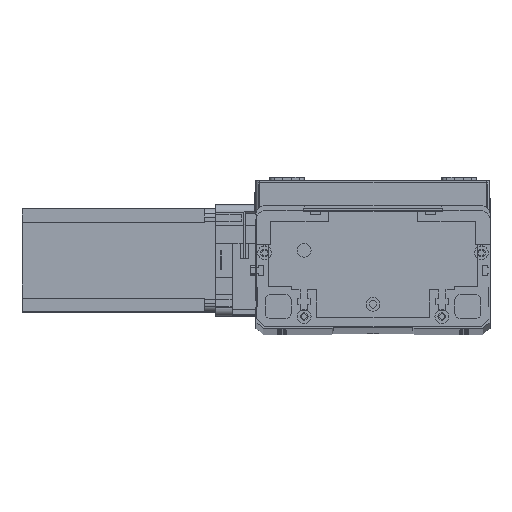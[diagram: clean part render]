
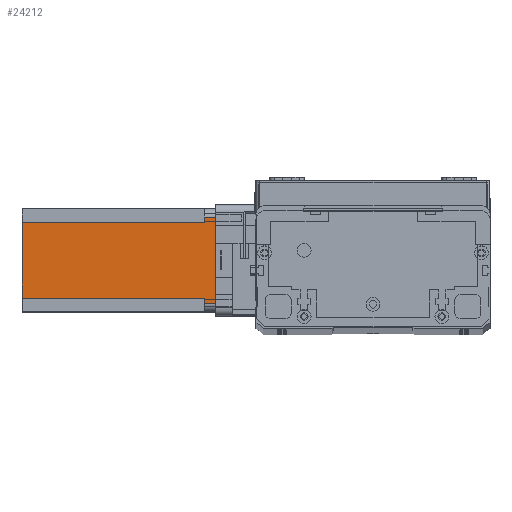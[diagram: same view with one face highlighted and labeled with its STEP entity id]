
A CAD part, top view. The second image highlights one B-rep face of the part: STEP entity #24212.
In plain terms, the highlighted planar face has unit normal (0, 0, 1) as drawn and (0, -1, 0) by its records, which use the part's own axes.
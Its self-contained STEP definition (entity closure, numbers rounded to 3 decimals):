
#462 = EDGE_CURVE ( 'NONE', #4336, #15537, #1293, .T. ) ;
#722 = FACE_OUTER_BOUND ( 'NONE', #7546, .T. ) ;
#1121 = ORIENTED_EDGE ( 'NONE', *, *, #26202, .T. ) ;
#1293 = LINE ( 'NONE', #16693, #11858 ) ;
#1344 = EDGE_CURVE ( 'NONE', #9680, #15537, #26496, .T. ) ;
#1697 = EDGE_CURVE ( 'NONE', #7753, #9680, #19478, .T. ) ;
#1983 = CARTESIAN_POINT ( 'NONE',  ( 5., 0., -6.5 ) ) ;
#1993 = EDGE_CURVE ( 'NONE', #7753, #4247, #24920, .T. ) ;
#2089 = ORIENTED_EDGE ( 'NONE', *, *, #1993, .T. ) ;
#2122 = VECTOR ( 'NONE', #3129, 1000. ) ;
#2284 = ORIENTED_EDGE ( 'NONE', *, *, #13490, .F. ) ;
#2534 = CARTESIAN_POINT ( 'NONE',  ( 52., 0., -6.5 ) ) ;
#2559 = EDGE_CURVE ( 'NONE', #7074, #4247, #7742, .T. ) ;
#3005 = CARTESIAN_POINT ( 'NONE',  ( 8., 0., -112.5 ) ) ;
#3114 = ORIENTED_EDGE ( 'NONE', *, *, #2559, .F. ) ;
#3127 = DIRECTION ( 'NONE',  ( 1., 0., 0. ) ) ;
#3129 = DIRECTION ( 'NONE',  ( 0., 0., -1. ) ) ;
#3156 = DIRECTION ( 'NONE',  ( 1., 0., 0. ) ) ;
#3224 = CARTESIAN_POINT ( 'NONE',  ( 52., 0., -112.5 ) ) ;
#4247 = VERTEX_POINT ( 'NONE', #10047 ) ;
#4336 = VERTEX_POINT ( 'NONE', #15552 ) ;
#4414 = DIRECTION ( 'NONE',  ( 0., -1., 0. ) ) ;
#5067 = CARTESIAN_POINT ( 'NONE',  ( 55., 0., -112.5 ) ) ;
#7074 = VERTEX_POINT ( 'NONE', #2534 ) ;
#7269 = CARTESIAN_POINT ( 'NONE',  ( 55., 0., 0. ) ) ;
#7546 = EDGE_LOOP ( 'NONE', ( #1121, #15549, #2284, #15417, #18717, #20740, #2089, #3114 ) ) ;
#7742 = LINE ( 'NONE', #3224, #2122 ) ;
#7753 = VERTEX_POINT ( 'NONE', #3005 ) ;
#9345 = DIRECTION ( 'NONE',  ( 0., 0., 1. ) ) ;
#9680 = VERTEX_POINT ( 'NONE', #11453 ) ;
#10047 = CARTESIAN_POINT ( 'NONE',  ( 52., 0., -112.5 ) ) ;
#11166 = LINE ( 'NONE', #5067, #20244 ) ;
#11453 = CARTESIAN_POINT ( 'NONE',  ( 8., 0., -6.5 ) ) ;
#11689 = DIRECTION ( 'NONE',  ( -1., 0., 0. ) ) ;
#11858 = VECTOR ( 'NONE', #22778, 1000. ) ;
#13476 = VERTEX_POINT ( 'NONE', #7269 ) ;
#13490 = EDGE_CURVE ( 'NONE', #4336, #13476, #15439, .T. ) ;
#14018 = VECTOR ( 'NONE', #19637, 1000. ) ;
#14752 = VECTOR ( 'NONE', #3156, 1000. ) ;
#15328 = VECTOR ( 'NONE', #22905, 1000. ) ;
#15417 = ORIENTED_EDGE ( 'NONE', *, *, #462, .T. ) ;
#15421 = AXIS2_PLACEMENT_3D ( 'NONE', #21057, #4414, #19061 ) ;
#15439 = LINE ( 'NONE', #15749, #20295 ) ;
#15537 = VERTEX_POINT ( 'NONE', #1983 ) ;
#15549 = ORIENTED_EDGE ( 'NONE', *, *, #26701, .T. ) ;
#15552 = CARTESIAN_POINT ( 'NONE',  ( 5., 0., 0. ) ) ;
#15649 = VECTOR ( 'NONE', #11689, 1000. ) ;
#15749 = CARTESIAN_POINT ( 'NONE',  ( 0., 0., 0. ) ) ;
#16693 = CARTESIAN_POINT ( 'NONE',  ( 5., 0., -112.5 ) ) ;
#16990 = PLANE ( 'NONE',  #15421 ) ;
#17767 = CARTESIAN_POINT ( 'NONE',  ( 52., 0., -6.5 ) ) ;
#17876 = CARTESIAN_POINT ( 'NONE',  ( 8., 0., -6.5 ) ) ;
#18717 = ORIENTED_EDGE ( 'NONE', *, *, #1344, .F. ) ;
#19061 = DIRECTION ( 'NONE',  ( 0., 0., -1. ) ) ;
#19478 = LINE ( 'NONE', #26204, #14018 ) ;
#19637 = DIRECTION ( 'NONE',  ( 0., 0., 1. ) ) ;
#20244 = VECTOR ( 'NONE', #9345, 1000. ) ;
#20295 = VECTOR ( 'NONE', #3127, 1000. ) ;
#20462 = VERTEX_POINT ( 'NONE', #23056 ) ;
#20740 = ORIENTED_EDGE ( 'NONE', *, *, #1697, .F. ) ;
#20897 = LINE ( 'NONE', #17767, #14752 ) ;
#21057 = CARTESIAN_POINT ( 'NONE',  ( 0., 0., -112.5 ) ) ;
#22778 = DIRECTION ( 'NONE',  ( 0., 0., -1. ) ) ;
#22905 = DIRECTION ( 'NONE',  ( 1., 0., 0. ) ) ;
#22992 = CARTESIAN_POINT ( 'NONE',  ( 0., 0., -112.5 ) ) ;
#23056 = CARTESIAN_POINT ( 'NONE',  ( 55., 0., -6.5 ) ) ;
#24212 = ADVANCED_FACE ( 'NONE', ( #722 ), #16990, .T. ) ;
#24920 = LINE ( 'NONE', #22992, #15328 ) ;
#26202 = EDGE_CURVE ( 'NONE', #7074, #20462, #20897, .T. ) ;
#26204 = CARTESIAN_POINT ( 'NONE',  ( 8., 0., -112.5 ) ) ;
#26496 = LINE ( 'NONE', #17876, #15649 ) ;
#26701 = EDGE_CURVE ( 'NONE', #20462, #13476, #11166, .T. ) ;
